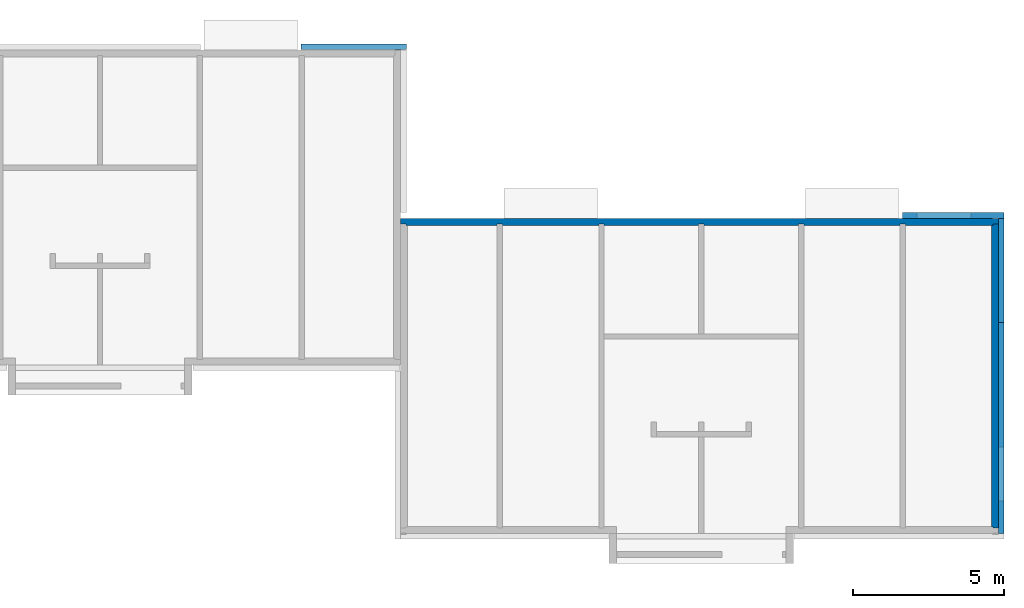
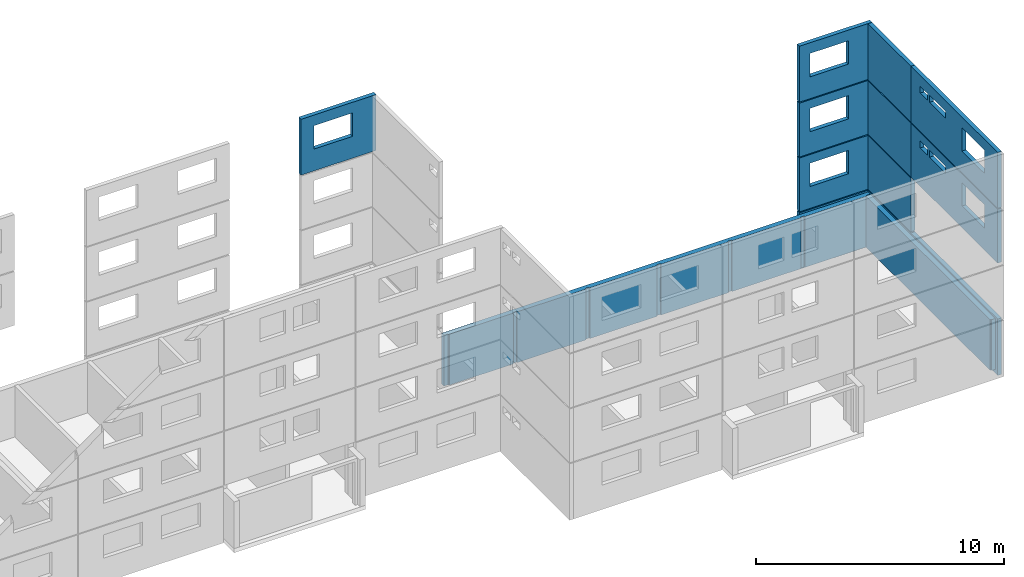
# One storey, part 14 of 15: 14 walls, 14 openings.
"""IFC2X3 building model written with IfcOpenShell, lengths in metres."""

from ifc_helpers import new_model, si_unit, frame, origin, place, context, project, spatial, faceted_brep, element, save


model = new_model("IFC2X3")

# Units and contexts
model_context = context("Model", 3, precision=1e-06, world=origin())
ifc_project = project(units=[si_unit("LENGTHUNIT", "METRE"), si_unit("PLANEANGLEUNIT", "RADIAN")], contexts=[model_context])

# Site, building, storey
site = spatial("IfcSite", under=ifc_project, CompositionType="ELEMENT")
building = spatial("IfcBuilding", under=site, CompositionType="ELEMENT")
storey = spatial("IfcBuildingStorey", under=building, Name="rdc", CompositionType="ELEMENT", Elevation=0.0)

# Wall
placement = place(None, origin())
wall_1_placement = place(placement, frame((59.736999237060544, 1.420162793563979, 8.025000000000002), z_axis=(0.0, 0.0, 1.0), x_axis=(0.0, 1.0, 0.0)))
element("IfcWall", 1, at=wall_1_placement, inside=storey, Name="rdc1", context=model_context, shape_type="Brep", body=[
    faceted_brep([(0.0, 0.0, 2.749999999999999), (0.0, 0.187, 2.749999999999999), (0.0, 0.187, 0.0), (0.0, 0.0, 0.0), (0.0, 0.187, 2.749999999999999), (3.449914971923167, 0.187, 2.749999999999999), (3.449914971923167, 0.187, 0.0), (0.0, 0.187, 0.0), (3.449914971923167, 0.187, 2.749999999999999), (3.449914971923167, 0.0, 2.749999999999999), (3.449914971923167, 0.0, 0.0), (3.449914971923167, 0.187, 0.0), (3.449914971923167, 0.0, 2.749999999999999), (0.0, 0.0, 2.749999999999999), (0.0, 0.0, 0.0), (3.449914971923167, 0.0, 0.0), (0.0, 0.0, 2.749999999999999), (3.449914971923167, 0.0, 2.749999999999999), (3.449914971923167, 0.187, 2.749999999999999), (0.0, 0.187, 2.749999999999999), (0.0, 0.0, 0.0), (0.0, 0.187, 0.0), (3.449914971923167, 0.187, 0.0), (3.449914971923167, 0.0, 0.0)], [[[0, 1, 2, 3]], [[4, 5, 6, 7]], [[8, 9, 10, 11]], [[12, 13, 14, 15]], [[16, 17, 18, 19]], [[20, 21, 22, 23]]]),
])

# Wall, opening
wall_2_placement = place(placement, frame((36.39540136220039, 10.483077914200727, 8.025000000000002), z_axis=(0.0, 0.0, 1.0), x_axis=(1.0, 0.0, 0.0)))
wall_2 = element("IfcWall", 2, at=wall_2_placement, inside=storey, context=model_context, shape_type="Brep", body=[
    faceted_brep([(0.0, 0.0, 2.75), (0.0, 0.187, 2.75), (0.0, 0.187, 0.0), (0.0, 0.0, 0.0), (0.0, 0.187, 2.75), (3.491597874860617, 0.187, 2.75), (3.491597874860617, 0.187, 0.0), (0.0, 0.187, 0.0), (3.491597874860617, 0.187, 2.75), (3.491597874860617, 0.0, 2.75), (3.491597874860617, 0.0, 0.0), (3.491597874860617, 0.187, 0.0), (3.491597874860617, 0.0, 2.75), (0.0, 0.0, 2.75), (0.0, 0.0, 0.0), (3.491597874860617, 0.0, 0.0), (0.0, 0.0, 2.75), (3.491597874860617, 0.0, 2.75), (3.491597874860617, 0.187, 2.75), (0.0, 0.187, 2.75), (0.0, 0.0, 0.0), (0.0, 0.187, 0.0), (3.491597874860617, 0.187, 0.0), (3.491597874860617, 0.0, 0.0)], [[[0, 1, 2, 3]], [[4, 5, 6, 7]], [[8, 9, 10, 11]], [[12, 13, 14, 15]], [[16, 17, 18, 19]], [[20, 21, 22, 23]]]),
])
opening_1_placement = place(placement, frame((38.79540136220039, 10.670077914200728, 9.100000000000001), z_axis=(0.0, 0.0, 1.0), x_axis=(-1.0, 0.0, 0.0)))
element("IfcOpeningElement", 3, at=opening_1_placement, cuts=wall_2, Name="Opening", context=model_context, shape_type="Brep", body=[
    faceted_brep([(0.0, 0.187, 0.0), (1.8, 0.187, 0.0), (1.8, 0.0, 0.0), (0.0, 0.0, 0.0), (1.8, 0.0, 1.15), (1.8, 0.187, 1.15), (0.0, 0.187, 1.15), (0.0, 0.0, 1.15), (0.0, 0.187, 0.0), (0.0, 0.0, 0.0), (0.0, 0.0, 1.15), (0.0, 0.187, 1.15), (1.8, 0.187, 0.0), (0.0, 0.187, 0.0), (0.0, 0.187, 1.15), (1.8, 0.187, 1.15), (1.8, 0.0, 0.0), (1.8, 0.187, 0.0), (1.8, 0.187, 1.15), (1.8, 0.0, 1.15), (0.0, 0.0, 0.0), (1.8, 0.0, 0.0), (1.8, 0.0, 1.15), (0.0, 0.0, 1.15)], [[[0, 1, 2, 3]], [[4, 5, 6, 7]], [[8, 9, 10, 11]], [[12, 13, 14, 15]], [[16, 17, 18, 19]], [[20, 21, 22, 23]]]),
])

wall_3_placement = place(placement, frame((56.364999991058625, 4.883077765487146, 8.025000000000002), z_axis=(0.0, 0.0, 1.0), x_axis=(1.0, 0.0, 0.0)))
wall_3 = element("IfcWall", 4, at=wall_3_placement, inside=storey, context=model_context, shape_type="Brep", body=[
    faceted_brep([(0.0, 0.0, 2.75), (0.0, 0.187, 2.75), (0.0, 0.187, 0.0), (0.0, 0.0, 0.0), (0.0, 0.187, 2.75), (3.37199924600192, 0.187, 2.75), (3.37199924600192, 0.187, 0.0), (0.0, 0.187, 0.0), (3.37199924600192, 0.187, 2.75), (3.37199924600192, 0.0, 2.75), (3.37199924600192, 0.0, 0.0), (3.37199924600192, 0.187, 0.0), (3.37199924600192, 0.0, 2.75), (0.0, 0.0, 2.75), (0.0, 0.0, 0.0), (3.37199924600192, 0.0, 0.0), (0.0, 0.0, 2.75), (3.37199924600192, 0.0, 2.75), (3.37199924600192, 0.187, 2.75), (0.0, 0.187, 2.75), (0.0, 0.0, 0.0), (0.0, 0.187, 0.0), (3.37199924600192, 0.187, 0.0), (3.37199924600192, 0.0, 0.0)], [[[0, 1, 2, 3]], [[4, 5, 6, 7]], [[8, 9, 10, 11]], [[12, 13, 14, 15]], [[16, 17, 18, 19]], [[20, 21, 22, 23]]]),
])
opening_2_placement = place(placement, frame((58.64899923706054, 5.070077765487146, 9.100000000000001), z_axis=(0.0, 0.0, 1.0), x_axis=(-1.0, 0.0, 0.0)))
element("IfcOpeningElement", 5, at=opening_2_placement, cuts=wall_3, Name="Opening", context=model_context, shape_type="Brep", body=[
    faceted_brep([(0.0, 0.187, 0.0), (1.8, 0.187, 0.0), (1.8, 0.0, 0.0), (0.0, 0.0, 0.0), (1.8, 0.0, 1.15), (1.8, 0.187, 1.15), (0.0, 0.187, 1.15), (0.0, 0.0, 1.15), (0.0, 0.187, 0.0), (0.0, 0.0, 0.0), (0.0, 0.0, 1.15), (0.0, 0.187, 1.15), (1.8, 0.187, 0.0), (0.0, 0.187, 0.0), (0.0, 0.187, 1.15), (1.8, 0.187, 1.15), (1.8, 0.0, 0.0), (1.8, 0.187, 0.0), (1.8, 0.187, 1.15), (1.8, 0.0, 1.15), (0.0, 0.0, 0.0), (1.8, 0.0, 0.0), (1.8, 0.0, 1.15), (0.0, 0.0, 1.15)], [[[0, 1, 2, 3]], [[4, 5, 6, 7]], [[8, 9, 10, 11]], [[12, 13, 14, 15]], [[16, 17, 18, 19]], [[20, 21, 22, 23]]]),
])

# Wall, openings
wall_4_placement = place(placement, frame((59.736999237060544, -5.579837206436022, -0.2), z_axis=(0.0, 0.0, 1.0), x_axis=(0.0, 1.0, 0.0)))
wall_4 = element("IfcWall", 6, at=wall_4_placement, inside=storey, Name="rdc1", context=model_context, shape_type="Brep", body=[
    faceted_brep([(0.0, 0.0, 2.775), (0.0, 0.187, 2.775), (0.0, 0.187, 0.0), (0.0, 0.0, 0.0), (0.0, 0.187, 2.775), (7.0, 0.187, 2.775), (7.0, 0.187, 0.0), (0.0, 0.187, 0.0), (7.0, 0.187, 2.775), (7.0, 0.0, 2.775), (7.0, 0.0, 0.0), (7.0, 0.187, 0.0), (7.0, 0.0, 2.775), (0.0, 0.0, 2.775), (0.0, 0.0, 0.0), (7.0, 0.0, 0.0), (0.0, 0.0, 2.775), (7.0, 0.0, 2.775), (7.0, 0.187, 2.775), (0.0, 0.187, 2.775), (0.0, 0.0, 0.0), (0.0, 0.187, 0.0), (7.0, 0.187, 0.0), (7.0, 0.0, 0.0)], [[[0, 1, 2, 3]], [[4, 5, 6, 7]], [[8, 9, 10, 11]], [[12, 13, 14, 15]], [[16, 17, 18, 19]], [[20, 21, 22, 23]]]),
])
opening_3_placement = place(placement, frame((59.736999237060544, -4.504837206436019, 1.0), z_axis=(0.0, 0.0, 1.0), x_axis=(0.0, 1.0, 0.0)))
element("IfcOpeningElement", 7, at=opening_3_placement, cuts=wall_4, Name="Opening", context=model_context, shape_type="Brep", body=[
    faceted_brep([(0.0, 0.187, 0.0), (1.8, 0.187, 0.0), (1.8, 0.0, 0.0), (0.0, 0.0, 0.0), (1.8, 0.0, 1.15), (1.8, 0.187, 1.15), (0.0, 0.187, 1.15), (0.0, 0.0, 1.15), (0.0, 0.187, 0.0), (0.0, 0.0, 0.0), (0.0, 0.0, 1.15), (0.0, 0.187, 1.15), (1.8, 0.187, 0.0), (0.0, 0.187, 0.0), (0.0, 0.187, 1.15), (1.8, 0.187, 1.15), (1.8, 0.0, 0.0), (1.8, 0.187, 0.0), (1.8, 0.187, 1.15), (1.8, 0.0, 1.15), (0.0, 0.0, 0.0), (1.8, 0.0, 0.0), (1.8, 0.0, 1.15), (0.0, 0.0, 1.15)], [[[0, 1, 2, 3]], [[4, 5, 6, 7]], [[8, 9, 10, 11]], [[12, 13, 14, 15]], [[16, 17, 18, 19]], [[20, 21, 22, 23]]]),
])
opening_4_placement = place(placement, frame((59.736999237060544, 0.070162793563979, 1.81), z_axis=(0.0, 0.0, 1.0), x_axis=(0.0, 1.0, 0.0)))
element("IfcOpeningElement", 8, at=opening_4_placement, cuts=wall_4, Name="Opening", context=model_context, shape_type="Brep", body=[
    faceted_brep([(0.0, 0.186999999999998, 0.0), (0.6, 0.186999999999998, 0.0), (0.6, 0.0, 0.0), (0.0, 0.0, 0.0), (0.6, 0.0, 0.34), (0.6, 0.186999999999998, 0.34), (0.0, 0.186999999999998, 0.34), (0.0, 0.0, 0.34), (0.0, 0.186999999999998, 0.0), (0.0, 0.0, 0.0), (0.0, 0.0, 0.34), (0.0, 0.186999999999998, 0.34), (0.6, 0.186999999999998, 0.0), (0.0, 0.186999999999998, 0.0), (0.0, 0.186999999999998, 0.34), (0.6, 0.186999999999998, 0.34), (0.6, 0.0, 0.0), (0.6, 0.186999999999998, 0.0), (0.6, 0.186999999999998, 0.34), (0.6, 0.0, 0.34), (0.0, 0.0, 0.0), (0.6, 0.0, 0.0), (0.6, 0.0, 0.34), (0.0, 0.0, 0.34)], [[[0, 1, 2, 3]], [[4, 5, 6, 7]], [[8, 9, 10, 11]], [[12, 13, 14, 15]], [[16, 17, 18, 19]], [[20, 21, 22, 23]]]),
])
opening_5_placement = place(placement, frame((59.736999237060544, -1.379837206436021, 1.81), z_axis=(0.0, 0.0, 1.0), x_axis=(0.0, 1.0, 0.0)))
element("IfcOpeningElement", 9, at=opening_5_placement, cuts=wall_4, Name="Opening", context=model_context, shape_type="Brep", body=[
    faceted_brep([(0.0, 0.186999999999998, 0.0), (1.3, 0.186999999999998, 0.0), (1.3, 0.0, 0.0), (0.0, 0.0, 0.0), (1.3, 0.0, 0.34), (1.3, 0.186999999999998, 0.34), (0.0, 0.186999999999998, 0.34), (0.0, 0.0, 0.34), (0.0, 0.186999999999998, 0.0), (0.0, 0.0, 0.0), (0.0, 0.0, 0.34), (0.0, 0.186999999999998, 0.34), (1.3, 0.186999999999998, 0.0), (0.0, 0.186999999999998, 0.0), (0.0, 0.186999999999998, 0.34), (1.3, 0.186999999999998, 0.34), (1.3, 0.0, 0.0), (1.3, 0.186999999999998, 0.0), (1.3, 0.186999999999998, 0.34), (1.3, 0.0, 0.34), (0.0, 0.0, 0.0), (1.3, 0.0, 0.0), (1.3, 0.0, 0.34), (0.0, 0.0, 0.34)], [[[0, 1, 2, 3]], [[4, 5, 6, 7]], [[8, 9, 10, 11]], [[12, 13, 14, 15]], [[16, 17, 18, 19]], [[20, 21, 22, 23]]]),
])

# Walls
wall_5_placement = place(placement, frame((59.736999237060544, 1.420162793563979, -0.2), z_axis=(0.0, 0.0, 1.0), x_axis=(0.0, 1.0, 0.0)))
element("IfcWall", 10, at=wall_5_placement, inside=storey, Name="rdc1", context=model_context, shape_type="Brep", body=[
    faceted_brep([(0.0, 0.0, 2.775), (0.0, 0.187, 2.775), (0.0, 0.187, 0.0), (0.0, 0.0, 0.0), (0.0, 0.187, 2.775), (3.449914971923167, 0.187, 2.775), (3.449914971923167, 0.187, 0.0), (0.0, 0.187, 0.0), (3.449914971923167, 0.187, 2.775), (3.449914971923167, 0.0, 2.775), (3.449914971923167, 0.0, 0.0), (3.449914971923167, 0.187, 0.0), (3.449914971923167, 0.0, 2.775), (0.0, 0.0, 2.775), (0.0, 0.0, 0.0), (3.449914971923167, 0.0, 0.0), (0.0, 0.0, 2.775), (3.449914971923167, 0.0, 2.775), (3.449914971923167, 0.187, 2.775), (0.0, 0.187, 2.775), (0.0, 0.0, 0.0), (0.0, 0.187, 0.0), (3.449914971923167, 0.187, 0.0), (3.449914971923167, 0.0, 0.0)], [[[0, 1, 2, 3]], [[4, 5, 6, 7]], [[8, 9, 10, 11]], [[12, 13, 14, 15]], [[16, 17, 18, 19]], [[20, 21, 22, 23]]]),
])
for number, where, z_axis, x_axis, name in (
    (11, (59.736999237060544, 1.420162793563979, 5.325000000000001), (0.0, 0.0, 1.0), (0.0, 1.0, 0.0), "rdc1"),
    (12, (59.736999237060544, 1.420162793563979, 2.625), (0.0, 0.0, 1.0), (0.0, 1.0, 0.0), "rdc1"),
):
    element("IfcWall", number, at=place(placement, frame(where, z_axis=z_axis, x_axis=x_axis)), inside=storey, Name=name, context=model_context, shape_type="Brep", body=[
        faceted_brep([(0.0, 0.0, 2.65), (0.0, 0.187, 2.65), (0.0, 0.187, 0.0), (0.0, 0.0, 0.0), (0.0, 0.187, 2.65), (3.449914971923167, 0.187, 2.65), (3.449914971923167, 0.187, 0.0), (0.0, 0.187, 0.0), (3.449914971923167, 0.187, 2.65), (3.449914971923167, 0.0, 2.65), (3.449914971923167, 0.0, 0.0), (3.449914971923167, 0.187, 0.0), (3.449914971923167, 0.0, 2.65), (0.0, 0.0, 2.65), (0.0, 0.0, 0.0), (3.449914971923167, 0.0, 0.0), (0.0, 0.0, 2.65), (3.449914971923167, 0.0, 2.65), (3.449914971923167, 0.187, 2.65), (0.0, 0.187, 2.65), (0.0, 0.0, 0.0), (0.0, 0.187, 0.0), (3.449914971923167, 0.187, 0.0), (3.449914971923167, 0.0, 0.0)], [[[0, 1, 2, 3]], [[4, 5, 6, 7]], [[8, 9, 10, 11]], [[12, 13, 14, 15]], [[16, 17, 18, 19]], [[20, 21, 22, 23]]]),
    ])

# Wall, openings
wall_6_placement = place(placement, frame((59.736999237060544, -5.579837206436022, 5.325000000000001), z_axis=(0.0, 0.0, 1.0), x_axis=(0.0, 1.0, 0.0)))
wall_6 = element("IfcWall", 13, at=wall_6_placement, inside=storey, Name="rdc1", context=model_context, shape_type="Brep", body=[
    faceted_brep([(0.0, 0.0, 2.65), (0.0, 0.187, 2.65), (0.0, 0.187, 0.0), (0.0, 0.0, 0.0), (0.0, 0.187, 2.65), (7.0, 0.187, 2.65), (7.0, 0.187, 0.0), (0.0, 0.187, 0.0), (7.0, 0.187, 2.65), (7.0, 0.0, 2.65), (7.0, 0.0, 0.0), (7.0, 0.187, 0.0), (7.0, 0.0, 2.65), (0.0, 0.0, 2.65), (0.0, 0.0, 0.0), (7.0, 0.0, 0.0), (0.0, 0.0, 2.65), (7.0, 0.0, 2.65), (7.0, 0.187, 2.65), (0.0, 0.187, 2.65), (0.0, 0.0, 0.0), (0.0, 0.187, 0.0), (7.0, 0.187, 0.0), (7.0, 0.0, 0.0)], [[[0, 1, 2, 3]], [[4, 5, 6, 7]], [[8, 9, 10, 11]], [[12, 13, 14, 15]], [[16, 17, 18, 19]], [[20, 21, 22, 23]]]),
])
opening_6_placement = place(placement, frame((59.736999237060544, -4.504837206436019, 6.4), z_axis=(0.0, 0.0, 1.0), x_axis=(0.0, 1.0, 0.0)))
element("IfcOpeningElement", 14, at=opening_6_placement, cuts=wall_6, Name="Opening", context=model_context, shape_type="Brep", body=[
    faceted_brep([(0.0, 0.187, 0.0), (1.8, 0.187, 0.0), (1.8, 0.0, 0.0), (0.0, 0.0, 0.0), (1.8, 0.0, 1.15), (1.8, 0.187, 1.15), (0.0, 0.187, 1.15), (0.0, 0.0, 1.15), (0.0, 0.187, 0.0), (0.0, 0.0, 0.0), (0.0, 0.0, 1.15), (0.0, 0.187, 1.15), (1.8, 0.187, 0.0), (0.0, 0.187, 0.0), (0.0, 0.187, 1.15), (1.8, 0.187, 1.15), (1.8, 0.0, 0.0), (1.8, 0.187, 0.0), (1.8, 0.187, 1.15), (1.8, 0.0, 1.15), (0.0, 0.0, 0.0), (1.8, 0.0, 0.0), (1.8, 0.0, 1.15), (0.0, 0.0, 1.15)], [[[0, 1, 2, 3]], [[4, 5, 6, 7]], [[8, 9, 10, 11]], [[12, 13, 14, 15]], [[16, 17, 18, 19]], [[20, 21, 22, 23]]]),
])
opening_7_placement = place(placement, frame((59.736999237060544, -1.379837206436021, 7.210000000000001), z_axis=(0.0, 0.0, 1.0), x_axis=(0.0, 1.0, 0.0)))
element("IfcOpeningElement", 15, at=opening_7_placement, cuts=wall_6, Name="Opening", context=model_context, shape_type="Brep", body=[
    faceted_brep([(0.0, 0.186999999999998, 0.0), (1.3, 0.186999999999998, 0.0), (1.3, 0.0, 0.0), (0.0, 0.0, 0.0), (1.3, 0.0, 0.34), (1.3, 0.186999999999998, 0.34), (0.0, 0.186999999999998, 0.34), (0.0, 0.0, 0.34), (0.0, 0.186999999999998, 0.0), (0.0, 0.0, 0.0), (0.0, 0.0, 0.34), (0.0, 0.186999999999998, 0.34), (1.3, 0.186999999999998, 0.0), (0.0, 0.186999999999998, 0.0), (0.0, 0.186999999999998, 0.34), (1.3, 0.186999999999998, 0.34), (1.3, 0.0, 0.0), (1.3, 0.186999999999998, 0.0), (1.3, 0.186999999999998, 0.34), (1.3, 0.0, 0.34), (0.0, 0.0, 0.0), (1.3, 0.0, 0.0), (1.3, 0.0, 0.34), (0.0, 0.0, 0.34)], [[[0, 1, 2, 3]], [[4, 5, 6, 7]], [[8, 9, 10, 11]], [[12, 13, 14, 15]], [[16, 17, 18, 19]], [[20, 21, 22, 23]]]),
])
opening_8_placement = place(placement, frame((59.736999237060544, 0.070162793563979, 7.210000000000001), z_axis=(0.0, 0.0, 1.0), x_axis=(0.0, 1.0, 0.0)))
element("IfcOpeningElement", 16, at=opening_8_placement, cuts=wall_6, Name="Opening", context=model_context, shape_type="Brep", body=[
    faceted_brep([(0.0, 0.186999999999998, 0.0), (0.6, 0.186999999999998, 0.0), (0.6, 0.0, 0.0), (0.0, 0.0, 0.0), (0.6, 0.0, 0.34), (0.6, 0.186999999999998, 0.34), (0.0, 0.186999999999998, 0.34), (0.0, 0.0, 0.34), (0.0, 0.186999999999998, 0.0), (0.0, 0.0, 0.0), (0.0, 0.0, 0.34), (0.0, 0.186999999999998, 0.34), (0.6, 0.186999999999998, 0.0), (0.0, 0.186999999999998, 0.0), (0.0, 0.186999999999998, 0.34), (0.6, 0.186999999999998, 0.34), (0.6, 0.0, 0.0), (0.6, 0.186999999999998, 0.0), (0.6, 0.186999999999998, 0.34), (0.6, 0.0, 0.34), (0.0, 0.0, 0.0), (0.6, 0.0, 0.0), (0.6, 0.0, 0.34), (0.0, 0.0, 0.34)], [[[0, 1, 2, 3]], [[4, 5, 6, 7]], [[8, 9, 10, 11]], [[12, 13, 14, 15]], [[16, 17, 18, 19]], [[20, 21, 22, 23]]]),
])

# Wall
wall_7_placement = place(placement, frame((59.54999999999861, -5.399837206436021, 0.0), z_axis=(0.0, 0.0, 1.0), x_axis=(0.0, 1.0, 0.0)))
element("IfcWall", 17, at=wall_7_placement, inside=storey, context=model_context, shape_type="Brep", body=[
    faceted_brep([(0.04, 0.18, 2.5), (0.04, 0.22, 2.5), (0.04, 0.22, 0.0), (0.04, 0.18, 0.0), (0.04, 0.22, 2.5), (0.05, 0.22, 2.5), (0.05, 0.22, 0.0), (0.04, 0.22, 0.0), (0.05, 0.22, 2.5), (0.05, 0.23, 2.5), (0.05, 0.23, 0.0), (0.05, 0.22, 0.0), (0.05, 0.23, 2.5), (10.03991497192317, 0.23, 2.5), (10.03991497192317, 0.23, 0.0), (0.05, 0.23, 0.0), (10.03991497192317, 0.23, 2.5), (10.03991497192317, 0.22, 2.5), (10.03991497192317, 0.22, 0.0), (10.03991497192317, 0.23, 0.0), (10.03991497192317, 0.22, 2.5), (10.04991497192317, 0.22, 2.5), (10.04991497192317, 0.22, 0.0), (10.03991497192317, 0.22, 0.0), (10.04991497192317, 0.22, 2.5), (10.04991497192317, 0.18, 2.5), (10.04991497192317, 0.18, 0.0), (10.04991497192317, 0.22, 0.0), (10.04991497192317, 0.18, 2.5), (10.08991497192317, 0.18, 2.5), (10.08991497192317, 0.18, 0.0), (10.04991497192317, 0.18, 0.0), (10.08991497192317, 0.18, 2.5), (10.08991497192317, 0.0, 2.5), (10.08991497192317, 0.0, 0.0), (10.08991497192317, 0.18, 0.0), (10.08991497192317, 0.0, 2.5), (0.0, 0.0, 2.5), (0.0, 0.0, 0.0), (10.08991497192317, 0.0, 0.0), (0.0, 0.0, 2.5), (0.0, 0.18, 2.5), (0.0, 0.18, 0.0), (0.0, 0.0, 0.0), (0.0, 0.18, 2.5), (0.04, 0.18, 2.5), (0.04, 0.18, 0.0), (0.0, 0.18, 0.0), (0.04, 0.18, 2.5), (0.0, 0.18, 2.5), (0.0, 0.0, 2.5), (10.08991497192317, 0.0, 2.5), (10.08991497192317, 0.18, 2.5), (10.04991497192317, 0.18, 2.5), (10.04991497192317, 0.22, 2.5), (10.03991497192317, 0.22, 2.5), (10.03991497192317, 0.23, 2.5), (0.05, 0.23, 2.5), (0.05, 0.22, 2.5), (0.04, 0.22, 2.5), (0.04, 0.18, 0.0), (0.04, 0.22, 0.0), (0.05, 0.22, 0.0), (0.05, 0.23, 0.0), (10.03991497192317, 0.23, 0.0), (10.03991497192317, 0.22, 0.0), (10.04991497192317, 0.22, 0.0), (10.04991497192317, 0.18, 0.0), (10.08991497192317, 0.18, 0.0), (10.08991497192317, 0.0, 0.0), (0.0, 0.0, 0.0), (0.0, 0.18, 0.0)], [[[0, 1, 2, 3]], [[4, 5, 6, 7]], [[8, 9, 10, 11]], [[12, 13, 14, 15]], [[16, 17, 18, 19]], [[20, 21, 22, 23]], [[24, 25, 26, 27]], [[28, 29, 30, 31]], [[32, 33, 34, 35]], [[36, 37, 38, 39]], [[40, 41, 42, 43]], [[44, 45, 46, 47]], [[48, 49, 50, 51, 52, 53, 54, 55, 56, 57, 58, 59]], [[60, 61, 62, 63, 64, 65, 66, 67, 68, 69, 70, 71]]]),
])

# Wall, opening
wall_8_placement = place(placement, frame((56.364999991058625, 4.883077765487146, -0.2), z_axis=(0.0, 0.0, 1.0), x_axis=(1.0, 0.0, 0.0)))
wall_8 = element("IfcWall", 18, at=wall_8_placement, inside=storey, context=model_context, shape_type="Brep", body=[
    faceted_brep([(0.0, 0.0, 2.775), (0.0, 0.187, 2.775), (0.0, 0.187, 0.0), (0.0, 0.0, 0.0), (0.0, 0.187, 2.775), (3.37199924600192, 0.187, 2.775), (3.37199924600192, 0.187, 0.0), (0.0, 0.187, 0.0), (3.37199924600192, 0.187, 2.775), (3.37199924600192, 0.0, 2.775), (3.37199924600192, 0.0, 0.0), (3.37199924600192, 0.187, 0.0), (3.37199924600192, 0.0, 2.775), (0.0, 0.0, 2.775), (0.0, 0.0, 0.0), (3.37199924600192, 0.0, 0.0), (0.0, 0.0, 2.775), (3.37199924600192, 0.0, 2.775), (3.37199924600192, 0.187, 2.775), (0.0, 0.187, 2.775), (0.0, 0.0, 0.0), (0.0, 0.187, 0.0), (3.37199924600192, 0.187, 0.0), (3.37199924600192, 0.0, 0.0)], [[[0, 1, 2, 3]], [[4, 5, 6, 7]], [[8, 9, 10, 11]], [[12, 13, 14, 15]], [[16, 17, 18, 19]], [[20, 21, 22, 23]]]),
])
opening_9_placement = place(placement, frame((58.64899923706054, 5.070077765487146, 1.0), z_axis=(0.0, 0.0, 1.0), x_axis=(-1.0, 0.0, 0.0)))
element("IfcOpeningElement", 19, at=opening_9_placement, cuts=wall_8, Name="Opening", context=model_context, shape_type="Brep", body=[
    faceted_brep([(0.0, 0.187, 0.0), (1.8, 0.187, 0.0), (1.8, 0.0, 0.0), (0.0, 0.0, 0.0), (1.8, 0.0, 1.15), (1.8, 0.187, 1.15), (0.0, 0.187, 1.15), (0.0, 0.0, 1.15), (0.0, 0.187, 0.0), (0.0, 0.0, 0.0), (0.0, 0.0, 1.15), (0.0, 0.187, 1.15), (1.8, 0.187, 0.0), (0.0, 0.187, 0.0), (0.0, 0.187, 1.15), (1.8, 0.187, 1.15), (1.8, 0.0, 0.0), (1.8, 0.187, 0.0), (1.8, 0.187, 1.15), (1.8, 0.0, 1.15), (0.0, 0.0, 0.0), (1.8, 0.0, 0.0), (1.8, 0.0, 1.15), (0.0, 0.0, 1.15)], [[[0, 1, 2, 3]], [[4, 5, 6, 7]], [[8, 9, 10, 11]], [[12, 13, 14, 15]], [[16, 17, 18, 19]], [[20, 21, 22, 23]]]),
])

wall_9_placement = place(placement, frame((56.364999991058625, 4.883077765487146, 2.625), z_axis=(0.0, 0.0, 1.0), x_axis=(1.0, 0.0, 0.0)))
wall_9 = element("IfcWall", 20, at=wall_9_placement, inside=storey, context=model_context, shape_type="Brep", body=[
    faceted_brep([(0.0, 0.0, 2.65), (0.0, 0.187, 2.65), (0.0, 0.187, 0.0), (0.0, 0.0, 0.0), (0.0, 0.187, 2.65), (3.37199924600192, 0.187, 2.65), (3.37199924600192, 0.187, 0.0), (0.0, 0.187, 0.0), (3.37199924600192, 0.187, 2.65), (3.37199924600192, 0.0, 2.65), (3.37199924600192, 0.0, 0.0), (3.37199924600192, 0.187, 0.0), (3.37199924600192, 0.0, 2.65), (0.0, 0.0, 2.65), (0.0, 0.0, 0.0), (3.37199924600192, 0.0, 0.0), (0.0, 0.0, 2.65), (3.37199924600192, 0.0, 2.65), (3.37199924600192, 0.187, 2.65), (0.0, 0.187, 2.65), (0.0, 0.0, 0.0), (0.0, 0.187, 0.0), (3.37199924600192, 0.187, 0.0), (3.37199924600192, 0.0, 0.0)], [[[0, 1, 2, 3]], [[4, 5, 6, 7]], [[8, 9, 10, 11]], [[12, 13, 14, 15]], [[16, 17, 18, 19]], [[20, 21, 22, 23]]]),
])
opening_10_placement = place(placement, frame((58.64899923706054, 5.070077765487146, 3.7), z_axis=(0.0, 0.0, 1.0), x_axis=(-1.0, 0.0, 0.0)))
element("IfcOpeningElement", 21, at=opening_10_placement, cuts=wall_9, Name="Opening", context=model_context, shape_type="Brep", body=[
    faceted_brep([(0.0, 0.187, 0.0), (1.8, 0.187, 0.0), (1.8, 0.0, 0.0), (0.0, 0.0, 0.0), (1.8, 0.0, 1.15), (1.8, 0.187, 1.15), (0.0, 0.187, 1.15), (0.0, 0.0, 1.15), (0.0, 0.187, 0.0), (0.0, 0.0, 0.0), (0.0, 0.0, 1.15), (0.0, 0.187, 1.15), (1.8, 0.187, 0.0), (0.0, 0.187, 0.0), (0.0, 0.187, 1.15), (1.8, 0.187, 1.15), (1.8, 0.0, 0.0), (1.8, 0.187, 0.0), (1.8, 0.187, 1.15), (1.8, 0.0, 1.15), (0.0, 0.0, 0.0), (1.8, 0.0, 0.0), (1.8, 0.0, 1.15), (0.0, 0.0, 1.15)], [[[0, 1, 2, 3]], [[4, 5, 6, 7]], [[8, 9, 10, 11]], [[12, 13, 14, 15]], [[16, 17, 18, 19]], [[20, 21, 22, 23]]]),
])

wall_10_placement = place(placement, frame((56.364999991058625, 4.883077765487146, 5.325000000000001), z_axis=(0.0, 0.0, 1.0), x_axis=(1.0, 0.0, 0.0)))
wall_10 = element("IfcWall", 22, at=wall_10_placement, inside=storey, context=model_context, shape_type="Brep", body=[
    faceted_brep([(0.0, 0.0, 2.65), (0.0, 0.187, 2.65), (0.0, 0.187, 0.0), (0.0, 0.0, 0.0), (0.0, 0.187, 2.65), (3.37199924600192, 0.187, 2.65), (3.37199924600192, 0.187, 0.0), (0.0, 0.187, 0.0), (3.37199924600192, 0.187, 2.65), (3.37199924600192, 0.0, 2.65), (3.37199924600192, 0.0, 0.0), (3.37199924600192, 0.187, 0.0), (3.37199924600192, 0.0, 2.65), (0.0, 0.0, 2.65), (0.0, 0.0, 0.0), (3.37199924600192, 0.0, 0.0), (0.0, 0.0, 2.65), (3.37199924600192, 0.0, 2.65), (3.37199924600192, 0.187, 2.65), (0.0, 0.187, 2.65), (0.0, 0.0, 0.0), (0.0, 0.187, 0.0), (3.37199924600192, 0.187, 0.0), (3.37199924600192, 0.0, 0.0)], [[[0, 1, 2, 3]], [[4, 5, 6, 7]], [[8, 9, 10, 11]], [[12, 13, 14, 15]], [[16, 17, 18, 19]], [[20, 21, 22, 23]]]),
])
opening_11_placement = place(placement, frame((58.64899923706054, 5.070077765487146, 6.4), z_axis=(0.0, 0.0, 1.0), x_axis=(-1.0, 0.0, 0.0)))
element("IfcOpeningElement", 23, at=opening_11_placement, cuts=wall_10, Name="Opening", context=model_context, shape_type="Brep", body=[
    faceted_brep([(0.0, 0.187, 0.0), (1.8, 0.187, 0.0), (1.8, 0.0, 0.0), (0.0, 0.0, 0.0), (1.8, 0.0, 1.15), (1.8, 0.187, 1.15), (0.0, 0.187, 1.15), (0.0, 0.0, 1.15), (0.0, 0.187, 0.0), (0.0, 0.0, 0.0), (0.0, 0.0, 1.15), (0.0, 0.187, 1.15), (1.8, 0.187, 0.0), (0.0, 0.187, 0.0), (0.0, 0.187, 1.15), (1.8, 0.187, 1.15), (1.8, 0.0, 0.0), (1.8, 0.187, 0.0), (1.8, 0.187, 1.15), (1.8, 0.0, 1.15), (0.0, 0.0, 0.0), (1.8, 0.0, 0.0), (1.8, 0.0, 1.15), (0.0, 0.0, 1.15)], [[[0, 1, 2, 3]], [[4, 5, 6, 7]], [[8, 9, 10, 11]], [[12, 13, 14, 15]], [[16, 17, 18, 19]], [[20, 21, 22, 23]]]),
])

# Wall
wall_11_placement = place(placement, frame((59.54999999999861, 4.870077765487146, 0.0), z_axis=(0.0, 0.0, 1.0), x_axis=(-1.0, 0.0, 0.0)))
element("IfcWall", 24, at=wall_11_placement, inside=storey, context=model_context, shape_type="Brep", body=[
    faceted_brep([(19.62999999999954, 0.23, 2.5), (19.62999999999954, 0.22, 2.5), (19.62999999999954, 0.22, 0.0), (19.62999999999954, 0.23, 0.0), (19.62999999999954, 0.22, 2.5), (19.669999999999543, 0.22, 2.5), (19.669999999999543, 0.22, 0.0), (19.62999999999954, 0.22, 0.0), (19.669999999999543, 0.22, 2.5), (19.669999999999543, 0.18, 2.5), (19.669999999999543, 0.18, 0.0), (19.669999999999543, 0.22, 0.0), (19.669999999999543, 0.18, 2.5), (19.849999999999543, 0.18, 2.5), (19.849999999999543, 0.18, 0.0), (19.669999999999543, 0.18, 0.0), (19.849999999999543, 0.18, 2.5), (19.849999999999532, 0.0, 2.5), (19.849999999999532, 0.0, 0.0), (19.849999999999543, 0.18, 0.0), (19.849999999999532, 0.0, 2.5), (0.0, 0.0, 2.5), (0.0, 0.0, 0.0), (19.849999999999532, 0.0, 0.0), (0.0, 0.0, 2.5), (0.0, 0.18, 2.5), (0.0, 0.18, 0.0), (0.0, 0.0, 0.0), (0.0, 0.18, 2.5), (0.18, 0.18, 2.5), (0.18, 0.18, 0.0), (0.0, 0.18, 0.0), (0.18, 0.18, 2.5), (0.18, 0.22, 2.5), (0.18, 0.22, 0.0), (0.18, 0.18, 0.0), (0.18, 0.22, 2.5), (0.22, 0.22, 2.5), (0.22, 0.22, 0.0), (0.18, 0.22, 0.0), (0.22, 0.22, 2.5), (0.22, 0.23, 2.5), (0.22, 0.23, 0.0), (0.22, 0.22, 0.0), (0.22, 0.23, 2.5), (3.079999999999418, 0.23, 2.5), (3.079999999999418, 0.23, 0.0), (0.22, 0.23, 0.0), (3.079999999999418, 0.23, 2.5), (3.079999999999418, 0.18, 2.5), (3.079999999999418, 0.18, 0.0), (3.079999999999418, 0.23, 0.0), (3.079999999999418, 0.18, 2.5), (3.259999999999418, 0.18, 2.5), (3.259999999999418, 0.18, 0.0), (3.079999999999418, 0.18, 0.0), (3.259999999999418, 0.18, 2.5), (3.259999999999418, 0.23, 2.5), (3.259999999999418, 0.23, 0.0), (3.259999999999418, 0.18, 0.0), (3.259999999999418, 0.23, 2.5), (6.460000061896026, 0.230000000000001, 2.5), (6.460000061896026, 0.230000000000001, 0.0), (3.259999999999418, 0.23, 0.0), (6.460000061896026, 0.230000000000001, 2.5), (6.460000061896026, 0.180000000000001, 2.5), (6.460000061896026, 0.180000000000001, 0.0), (6.460000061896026, 0.230000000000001, 0.0), (6.460000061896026, 0.180000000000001, 2.5), (6.640000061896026, 0.18, 2.5), (6.640000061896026, 0.18, 0.0), (6.460000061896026, 0.180000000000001, 0.0), (6.640000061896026, 0.18, 2.5), (6.640000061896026, 0.230000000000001, 2.5), (6.640000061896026, 0.230000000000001, 0.0), (6.640000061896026, 0.18, 0.0), (6.640000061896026, 0.230000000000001, 2.5), (9.774999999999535, 0.230000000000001, 2.5), (9.774999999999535, 0.230000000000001, 0.0), (6.640000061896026, 0.230000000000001, 0.0), (9.774999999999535, 0.230000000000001, 2.5), (9.774999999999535, 0.180000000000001, 2.5), (9.774999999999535, 0.180000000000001, 0.0), (9.774999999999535, 0.230000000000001, 0.0), (9.774999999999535, 0.180000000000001, 2.5), (9.954999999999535, 0.18, 2.5), (9.954999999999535, 0.18, 0.0), (9.774999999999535, 0.180000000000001, 0.0), (9.954999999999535, 0.18, 2.5), (9.954999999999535, 0.230000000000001, 2.5), (9.954999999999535, 0.230000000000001, 0.0), (9.954999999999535, 0.18, 0.0), (9.954999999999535, 0.230000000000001, 2.5), (13.089999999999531, 0.23, 2.5), (13.089999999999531, 0.23, 0.0), (9.954999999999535, 0.230000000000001, 0.0), (13.089999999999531, 0.23, 2.5), (13.089999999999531, 0.18, 2.5), (13.089999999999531, 0.18, 0.0), (13.089999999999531, 0.23, 0.0), (13.089999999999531, 0.18, 2.5), (13.26999999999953, 0.179999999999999, 2.5), (13.26999999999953, 0.179999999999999, 0.0), (13.089999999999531, 0.18, 0.0), (13.26999999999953, 0.179999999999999, 2.5), (13.26999999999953, 0.23, 2.5), (13.26999999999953, 0.23, 0.0), (13.26999999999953, 0.179999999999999, 0.0), (13.26999999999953, 0.23, 2.5), (16.46999999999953, 0.23, 2.5), (16.46999999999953, 0.23, 0.0), (13.26999999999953, 0.23, 0.0), (16.46999999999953, 0.23, 2.5), (16.46999999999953, 0.18, 2.5), (16.46999999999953, 0.18, 0.0), (16.46999999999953, 0.23, 0.0), (16.46999999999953, 0.18, 2.5), (16.64999999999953, 0.18, 2.5), (16.64999999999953, 0.18, 0.0), (16.46999999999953, 0.18, 0.0), (16.64999999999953, 0.18, 2.5), (16.64999999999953, 0.23, 2.5), (16.64999999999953, 0.23, 0.0), (16.64999999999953, 0.18, 0.0), (16.64999999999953, 0.23, 2.5), (19.62999999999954, 0.23, 2.5), (19.62999999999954, 0.23, 0.0), (16.64999999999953, 0.23, 0.0), (19.62999999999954, 0.23, 2.5), (16.64999999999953, 0.23, 2.5), (16.64999999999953, 0.18, 2.5), (16.46999999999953, 0.18, 2.5), (16.46999999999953, 0.23, 2.5), (13.26999999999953, 0.23, 2.5), (13.26999999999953, 0.179999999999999, 2.5), (13.089999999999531, 0.18, 2.5), (13.089999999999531, 0.23, 2.5), (9.954999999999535, 0.230000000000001, 2.5), (9.954999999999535, 0.18, 2.5), (9.774999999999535, 0.180000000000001, 2.5), (9.774999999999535, 0.230000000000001, 2.5), (6.640000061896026, 0.230000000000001, 2.5), (6.640000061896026, 0.18, 2.5), (6.460000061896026, 0.180000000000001, 2.5), (6.460000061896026, 0.230000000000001, 2.5), (3.259999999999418, 0.23, 2.5), (3.259999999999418, 0.18, 2.5), (3.079999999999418, 0.18, 2.5), (3.079999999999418, 0.23, 2.5), (0.22, 0.23, 2.5), (0.22, 0.22, 2.5), (0.18, 0.22, 2.5), (0.18, 0.18, 2.5), (0.0, 0.18, 2.5), (0.0, 0.0, 2.5), (19.849999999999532, 0.0, 2.5), (19.849999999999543, 0.18, 2.5), (19.669999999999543, 0.18, 2.5), (19.669999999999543, 0.22, 2.5), (19.62999999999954, 0.22, 2.5), (19.62999999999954, 0.23, 0.0), (19.62999999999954, 0.22, 0.0), (19.669999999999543, 0.22, 0.0), (19.669999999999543, 0.18, 0.0), (19.849999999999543, 0.18, 0.0), (19.849999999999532, 0.0, 0.0), (0.0, 0.0, 0.0), (0.0, 0.18, 0.0), (0.18, 0.18, 0.0), (0.18, 0.22, 0.0), (0.22, 0.22, 0.0), (0.22, 0.23, 0.0), (3.079999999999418, 0.23, 0.0), (3.079999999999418, 0.18, 0.0), (3.259999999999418, 0.18, 0.0), (3.259999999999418, 0.23, 0.0), (6.460000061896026, 0.230000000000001, 0.0), (6.460000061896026, 0.180000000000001, 0.0), (6.640000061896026, 0.18, 0.0), (6.640000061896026, 0.230000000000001, 0.0), (9.774999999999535, 0.230000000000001, 0.0), (9.774999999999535, 0.180000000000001, 0.0), (9.954999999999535, 0.18, 0.0), (9.954999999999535, 0.230000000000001, 0.0), (13.089999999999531, 0.23, 0.0), (13.089999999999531, 0.18, 0.0), (13.26999999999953, 0.179999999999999, 0.0), (13.26999999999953, 0.23, 0.0), (16.46999999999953, 0.23, 0.0), (16.46999999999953, 0.18, 0.0), (16.64999999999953, 0.18, 0.0), (16.64999999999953, 0.23, 0.0)], [[[0, 1, 2, 3]], [[4, 5, 6, 7]], [[8, 9, 10, 11]], [[12, 13, 14, 15]], [[16, 17, 18, 19]], [[20, 21, 22, 23]], [[24, 25, 26, 27]], [[28, 29, 30, 31]], [[32, 33, 34, 35]], [[36, 37, 38, 39]], [[40, 41, 42, 43]], [[44, 45, 46, 47]], [[48, 49, 50, 51]], [[52, 53, 54, 55]], [[56, 57, 58, 59]], [[60, 61, 62, 63]], [[64, 65, 66, 67]], [[68, 69, 70, 71]], [[72, 73, 74, 75]], [[76, 77, 78, 79]], [[80, 81, 82, 83]], [[84, 85, 86, 87]], [[88, 89, 90, 91]], [[92, 93, 94, 95]], [[96, 97, 98, 99]], [[100, 101, 102, 103]], [[104, 105, 106, 107]], [[108, 109, 110, 111]], [[112, 113, 114, 115]], [[116, 117, 118, 119]], [[120, 121, 122, 123]], [[124, 125, 126, 127]], [[128, 129, 130, 131, 132, 133, 134, 135, 136, 137, 138, 139, 140, 141, 142, 143, 144, 145, 146, 147, 148, 149, 150, 151, 152, 153, 154, 155, 156, 157, 158, 159]], [[160, 161, 162, 163, 164, 165, 166, 167, 168, 169, 170, 171, 172, 173, 174, 175, 176, 177, 178, 179, 180, 181, 182, 183, 184, 185, 186, 187, 188, 189, 190, 191]]]),
])

# Wall, openings
wall_12_placement = place(placement, frame((59.736999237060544, -5.579837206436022, 8.025000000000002), z_axis=(0.0, 0.0, 1.0), x_axis=(0.0, 1.0, 0.0)))
wall_12 = element("IfcWall", 25, at=wall_12_placement, inside=storey, Name="rdc1", context=model_context, shape_type="Brep", body=[
    faceted_brep([(0.0, 0.0, 2.749999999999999), (0.0, 0.187, 2.749999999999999), (0.0, 0.187, 0.0), (0.0, 0.0, 0.0), (0.0, 0.187, 2.749999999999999), (7.0, 0.187, 2.749999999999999), (7.0, 0.187, 0.0), (0.0, 0.187, 0.0), (7.0, 0.187, 2.749999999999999), (7.0, 0.0, 2.749999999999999), (7.0, 0.0, 0.0), (7.0, 0.187, 0.0), (7.0, 0.0, 2.749999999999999), (0.0, 0.0, 2.749999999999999), (0.0, 0.0, 0.0), (7.0, 0.0, 0.0), (0.0, 0.0, 2.749999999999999), (7.0, 0.0, 2.749999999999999), (7.0, 0.187, 2.749999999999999), (0.0, 0.187, 2.749999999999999), (0.0, 0.0, 0.0), (0.0, 0.187, 0.0), (7.0, 0.187, 0.0), (7.0, 0.0, 0.0)], [[[0, 1, 2, 3]], [[4, 5, 6, 7]], [[8, 9, 10, 11]], [[12, 13, 14, 15]], [[16, 17, 18, 19]], [[20, 21, 22, 23]]]),
])
opening_12_placement = place(placement, frame((59.736999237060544, 0.070162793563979, 9.910000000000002), z_axis=(0.0, 0.0, 1.0), x_axis=(0.0, 1.0, 0.0)))
element("IfcOpeningElement", 26, at=opening_12_placement, cuts=wall_12, Name="Opening", context=model_context, shape_type="Brep", body=[
    faceted_brep([(0.0, 0.186999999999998, 0.0), (0.6, 0.186999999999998, 0.0), (0.6, 0.0, 0.0), (0.0, 0.0, 0.0), (0.6, 0.0, 0.34), (0.6, 0.186999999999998, 0.34), (0.0, 0.186999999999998, 0.34), (0.0, 0.0, 0.34), (0.0, 0.186999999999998, 0.0), (0.0, 0.0, 0.0), (0.0, 0.0, 0.34), (0.0, 0.186999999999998, 0.34), (0.6, 0.186999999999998, 0.0), (0.0, 0.186999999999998, 0.0), (0.0, 0.186999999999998, 0.34), (0.6, 0.186999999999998, 0.34), (0.6, 0.0, 0.0), (0.6, 0.186999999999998, 0.0), (0.6, 0.186999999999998, 0.34), (0.6, 0.0, 0.34), (0.0, 0.0, 0.0), (0.6, 0.0, 0.0), (0.6, 0.0, 0.34), (0.0, 0.0, 0.34)], [[[0, 1, 2, 3]], [[4, 5, 6, 7]], [[8, 9, 10, 11]], [[12, 13, 14, 15]], [[16, 17, 18, 19]], [[20, 21, 22, 23]]]),
])
opening_13_placement = place(placement, frame((59.736999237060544, -4.504837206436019, 9.100000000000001), z_axis=(0.0, 0.0, 1.0), x_axis=(0.0, 1.0, 0.0)))
element("IfcOpeningElement", 27, at=opening_13_placement, cuts=wall_12, Name="Opening", context=model_context, shape_type="Brep", body=[
    faceted_brep([(0.0, 0.187, 0.0), (1.8, 0.187, 0.0), (1.8, 0.0, 0.0), (0.0, 0.0, 0.0), (1.8, 0.0, 1.15), (1.8, 0.187, 1.15), (0.0, 0.187, 1.15), (0.0, 0.0, 1.15), (0.0, 0.187, 0.0), (0.0, 0.0, 0.0), (0.0, 0.0, 1.15), (0.0, 0.187, 1.15), (1.8, 0.187, 0.0), (0.0, 0.187, 0.0), (0.0, 0.187, 1.15), (1.8, 0.187, 1.15), (1.8, 0.0, 0.0), (1.8, 0.187, 0.0), (1.8, 0.187, 1.15), (1.8, 0.0, 1.15), (0.0, 0.0, 0.0), (1.8, 0.0, 0.0), (1.8, 0.0, 1.15), (0.0, 0.0, 1.15)], [[[0, 1, 2, 3]], [[4, 5, 6, 7]], [[8, 9, 10, 11]], [[12, 13, 14, 15]], [[16, 17, 18, 19]], [[20, 21, 22, 23]]]),
])
opening_14_placement = place(placement, frame((59.736999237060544, -1.379837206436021, 9.910000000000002), z_axis=(0.0, 0.0, 1.0), x_axis=(0.0, 1.0, 0.0)))
element("IfcOpeningElement", 28, at=opening_14_placement, cuts=wall_12, Name="Opening", context=model_context, shape_type="Brep", body=[
    faceted_brep([(0.0, 0.186999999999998, 0.0), (1.3, 0.186999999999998, 0.0), (1.3, 0.0, 0.0), (0.0, 0.0, 0.0), (1.3, 0.0, 0.34), (1.3, 0.186999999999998, 0.34), (0.0, 0.186999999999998, 0.34), (0.0, 0.0, 0.34), (0.0, 0.186999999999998, 0.0), (0.0, 0.0, 0.0), (0.0, 0.0, 0.34), (0.0, 0.186999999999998, 0.34), (1.3, 0.186999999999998, 0.0), (0.0, 0.186999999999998, 0.0), (0.0, 0.186999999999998, 0.34), (1.3, 0.186999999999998, 0.34), (1.3, 0.0, 0.0), (1.3, 0.186999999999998, 0.0), (1.3, 0.186999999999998, 0.34), (1.3, 0.0, 0.34), (0.0, 0.0, 0.0), (1.3, 0.0, 0.0), (1.3, 0.0, 0.34), (0.0, 0.0, 0.34)], [[[0, 1, 2, 3]], [[4, 5, 6, 7]], [[8, 9, 10, 11]], [[12, 13, 14, 15]], [[16, 17, 18, 19]], [[20, 21, 22, 23]]]),
])

save(model, "model.ifc")
